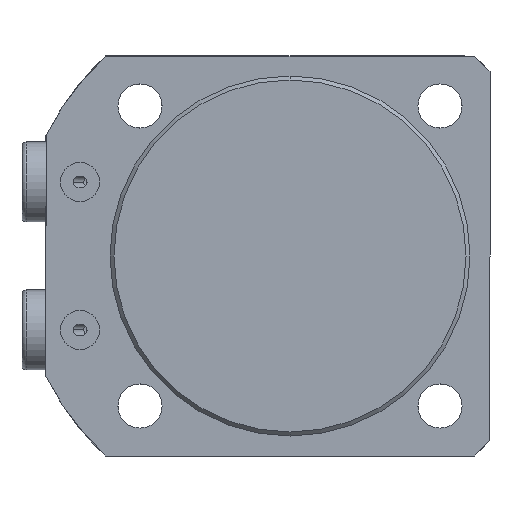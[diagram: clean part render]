
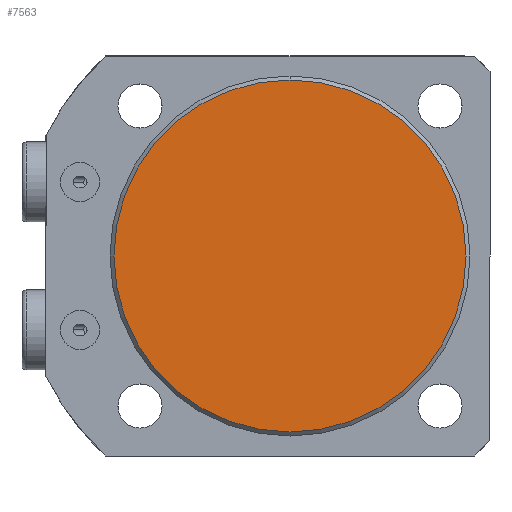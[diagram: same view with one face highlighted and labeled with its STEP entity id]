
A CAD part, front view. The second image highlights one B-rep face of the part: STEP entity #7563.
In plain terms, the highlighted planar face has unit normal (0, -1, 0).
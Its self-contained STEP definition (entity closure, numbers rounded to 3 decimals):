
#17 = DIRECTION ( 'NONE',  ( 0., 0., 1. ) ) ;
#348 = DIRECTION ( 'NONE',  ( 0., 0., 1. ) ) ;
#1180 = CARTESIAN_POINT ( 'NONE',  ( 0., 0., 0. ) ) ;
#1260 = CARTESIAN_POINT ( 'NONE',  ( 0., 0., -44. ) ) ;
#1546 = VERTEX_POINT ( 'NONE', #1260 ) ;
#1796 = PLANE ( 'NONE',  #3064 ) ;
#1864 = CIRCLE ( 'NONE', #6111, 44. ) ;
#2128 = ORIENTED_EDGE ( 'NONE', *, *, #5045, .T. ) ;
#2255 = CIRCLE ( 'NONE', #6999, 44. ) ;
#2820 = EDGE_CURVE ( 'NONE', #7213, #1546, #2255, .T. ) ;
#3064 = AXIS2_PLACEMENT_3D ( 'NONE', #1180, #3600, #17 ) ;
#3138 = DIRECTION ( 'NONE',  ( 0., 0., 1. ) ) ;
#3326 = ORIENTED_EDGE ( 'NONE', *, *, #2820, .T. ) ;
#3600 = DIRECTION ( 'NONE',  ( 0., 1., 0. ) ) ;
#3949 = DIRECTION ( 'NONE',  ( 0., -1., 0. ) ) ;
#4317 = DIRECTION ( 'NONE',  ( 0., -1., 0. ) ) ;
#4445 = CARTESIAN_POINT ( 'NONE',  ( 0., 0., 44. ) ) ;
#5045 = EDGE_CURVE ( 'NONE', #1546, #7213, #1864, .T. ) ;
#5455 = CARTESIAN_POINT ( 'NONE',  ( 0., 0., 0. ) ) ;
#6021 = FACE_OUTER_BOUND ( 'NONE', #7395, .T. ) ;
#6111 = AXIS2_PLACEMENT_3D ( 'NONE', #7472, #3949, #348 ) ;
#6999 = AXIS2_PLACEMENT_3D ( 'NONE', #5455, #4317, #3138 ) ;
#7213 = VERTEX_POINT ( 'NONE', #4445 ) ;
#7395 = EDGE_LOOP ( 'NONE', ( #3326, #2128 ) ) ;
#7472 = CARTESIAN_POINT ( 'NONE',  ( 0., 0., 0. ) ) ;
#7563 = ADVANCED_FACE ( 'NONE', ( #6021 ), #1796, .F. ) ;
